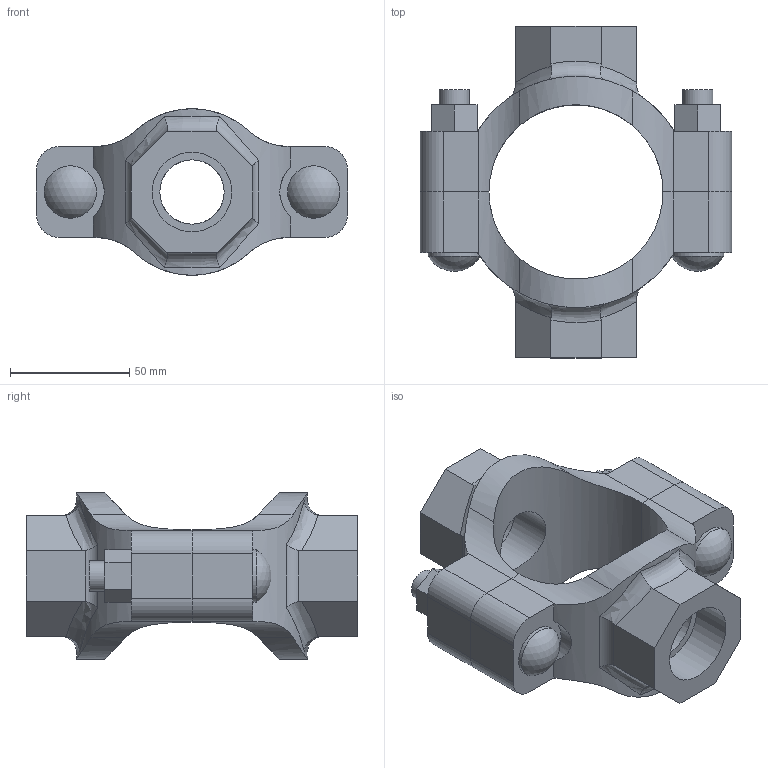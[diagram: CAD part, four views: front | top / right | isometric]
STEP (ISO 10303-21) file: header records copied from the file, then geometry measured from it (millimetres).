
FILE_DESCRIPTION(/* description */ ('VIC MECH-T BRANCH OUTLET CROSS STYLE 920N (THD)','CAx-IF Rec.Pracs.---Representation and Presentation of Product Manufacturing Information (PMI)---4.0---2014-10-13'),/* implementation_level */ '2;1');
FILE_NAME(/* name */ 'C:\Users\Vjadhav\AppData\Roaming\Autodesk\ApplicationPlugins\Back Up\Victaulic_IPS_Mechanical-Cross Outlet_Style 920N (FPT)\Victaulic_IPS_Mechanical-Cross Outlet_02.5x01.0x01.0 (65x25x25).stp',/* time_stamp */ '2020-08-06T18:56:40+05:00',/* author */ ('Vjadhav'),/* organization */ ('Victaulic'),/* preprocessor_version */ 'ST-DEVELOPER v17.2',/* originating_system */ 'Autodesk Inventor 2019',/* authorisation */ '');
FILE_SCHEMA (('AP242_MANAGED_MODEL_BASED_3D_ENGINEERING_MIM_LF { 1 0 10303 442 1 1 4 }'));
Length unit declared in the file: inch
Products named in the file (3): 920NT-02.5x01.0x01.0; 920NT-02.5x01.0; 920NT-02.5x01.0_1
Assembly tree (2 placements, depth 2):
  920NT-02.5x01.0x01.0
    920NT-02.5x01.0
    920NT-02.5x01.0_1
Bounding box: 130.56 x 139.19 x 69.84 mm (x, y, z)
Volume: 278856.1 mm3; surface area: 68098.4 mm2
Topology: 2 solids, 2 shells, 132 faces, 350 edges, 236 vertices
Faces by surface type: plane 68, cylinder 50, bspline 8, torus 4, sphere 2
Full cylindrical faces by diameter (mm): 12.7 x4, 21.982 x2, 26.987 x2, 33.401 x2
Entity records: 5086 total; most frequent: CARTESIAN_POINT 1573, ORIENTED_EDGE 700, DIRECTION 648, EDGE_CURVE 350, VERTEX_POINT 236, AXIS2_PLACEMENT_3D 231, LINE 186, VECTOR 186
